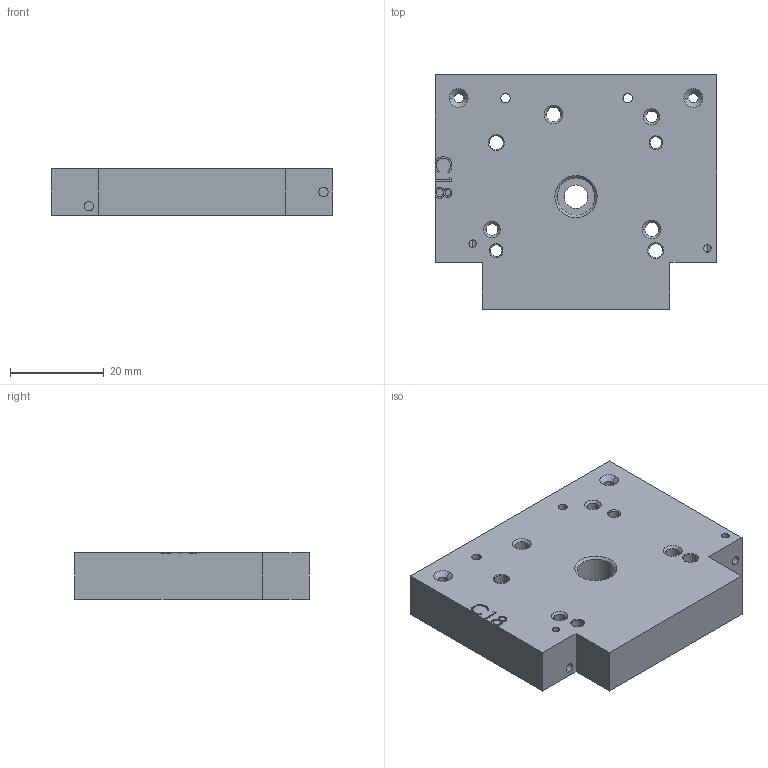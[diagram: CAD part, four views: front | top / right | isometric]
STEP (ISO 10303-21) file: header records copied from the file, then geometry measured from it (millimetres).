
FILE_DESCRIPTION (( 'STEP AP214' ), '1' );
FILE_NAME ('C18.STEP', '2016-02-27T15:10:13', ( '' ), ( '' ), 'SwSTEP 2.0', 'SolidWorks 2012', '' );
FILE_SCHEMA (( 'AUTOMOTIVE_DESIGN' ));
Length unit declared in the file: millimetre
Products named in the file (1): C18
Bounding box: 60 x 50 x 10 mm (x, y, z)
Volume: 26888.2 mm3; surface area: 8959.4 mm2
Topology: 1 solids, 1 shells, 114 faces, 300 edges, 192 vertices
Faces by surface type: cylinder 38, plane 26, bspline 26, cone 24
Entity records: 5062 total; most frequent: CARTESIAN_POINT 2265, ORIENTED_EDGE 600, DIRECTION 514, EDGE_CURVE 300, VERTEX_POINT 192, AXIS2_PLACEMENT_3D 185, EDGE_LOOP 148, LINE 144
